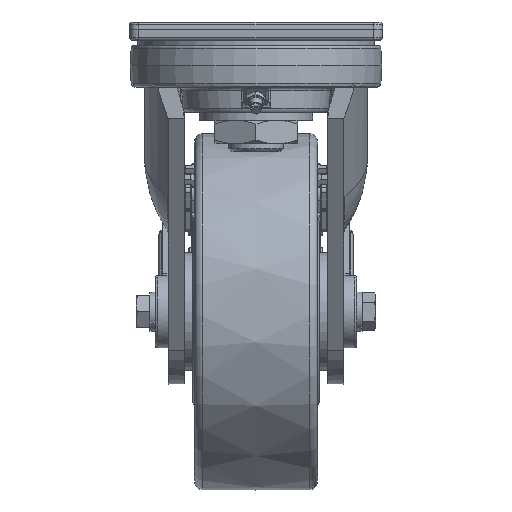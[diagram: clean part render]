
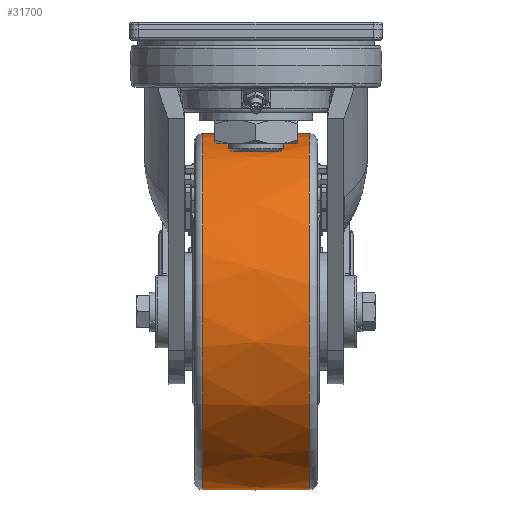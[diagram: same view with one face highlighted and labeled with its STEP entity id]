
A CAD part, left-side view. The second image highlights one B-rep face of the part: STEP entity #31700.
In plain terms, the highlighted free-form (B-spline) face has degree [2, 2] with [3, 9] control points.
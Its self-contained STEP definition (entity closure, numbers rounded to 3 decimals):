
#26=(
BOUNDED_SURFACE()
B_SPLINE_SURFACE(2,2,((#59387,#59388,#59389,#59390,#59391,#59392,#59393,
#59394,#59395),(#59396,#59397,#59398,#59399,#59400,#59401,#59402,#59403,
#59404),(#59405,#59406,#59407,#59408,#59409,#59410,#59411,#59412,#59413)),
 .UNSPECIFIED.,.F.,.T.,.F.)
B_SPLINE_SURFACE_WITH_KNOTS((3,3),(3,2,2,2,3),(-0.098,0.098),
(-3.142,-1.571,0.,1.571,3.142),
 .UNSPECIFIED.)
GEOMETRIC_REPRESENTATION_ITEM()
RATIONAL_B_SPLINE_SURFACE(((1.,0.707,1.,0.707,1.,
0.707,1.,0.707,1.),(0.995,0.704,
0.995,0.704,0.995,0.704,
0.995,0.704,0.995),(1.,0.707,
1.,0.707,1.,0.707,1.,0.707,1.)))
REPRESENTATION_ITEM('')
SURFACE()
);
#4175=FACE_OUTER_BOUND('',#6085,.T.);
#6085=EDGE_LOOP('',(#28425,#28426,#28427,#28428,#28429,#28430));
#12182=CIRCLE('',#34013,98.547);
#12183=CIRCLE('',#34014,98.547);
#12184=CIRCLE('',#34015,300.);
#12185=CIRCLE('',#34016,98.547);
#12186=CIRCLE('',#34017,98.547);
#15118=VERTEX_POINT('',#59382);
#15119=VERTEX_POINT('',#59384);
#15120=VERTEX_POINT('',#59414);
#15121=VERTEX_POINT('',#59416);
#19619=EDGE_CURVE('',#15118,#15119,#12182,.T.);
#19620=EDGE_CURVE('',#15119,#15118,#12183,.T.);
#19621=EDGE_CURVE('',#15118,#15120,#12184,.T.);
#19622=EDGE_CURVE('',#15120,#15121,#12185,.T.);
#19623=EDGE_CURVE('',#15121,#15120,#12186,.T.);
#28425=ORIENTED_EDGE('',*,*,#19620,.F.);
#28426=ORIENTED_EDGE('',*,*,#19619,.F.);
#28427=ORIENTED_EDGE('',*,*,#19621,.T.);
#28428=ORIENTED_EDGE('',*,*,#19622,.T.);
#28429=ORIENTED_EDGE('',*,*,#19623,.T.);
#28430=ORIENTED_EDGE('',*,*,#19621,.F.);
#31700=ADVANCED_FACE('',(#4175),#26,.F.);
#34013=AXIS2_PLACEMENT_3D('',#59385,#40785,#40786);
#34014=AXIS2_PLACEMENT_3D('',#59386,#40787,#40788);
#34015=AXIS2_PLACEMENT_3D('',#59415,#40789,#40790);
#34016=AXIS2_PLACEMENT_3D('',#59417,#40791,#40792);
#34017=AXIS2_PLACEMENT_3D('',#59418,#40793,#40794);
#40785=DIRECTION('center_axis',(0.,1.,0.));
#40786=DIRECTION('ref_axis',(0.854,0.,0.52));
#40787=DIRECTION('center_axis',(0.,1.,0.));
#40788=DIRECTION('ref_axis',(0.854,0.,0.52));
#40789=DIRECTION('center_axis',(0.52,0.,
-0.854));
#40790=DIRECTION('ref_axis',(0.854,0.,0.52));
#40791=DIRECTION('center_axis',(0.,1.,0.));
#40792=DIRECTION('ref_axis',(0.854,0.,0.52));
#40793=DIRECTION('center_axis',(0.,1.,0.));
#40794=DIRECTION('ref_axis',(0.854,0.,0.52));
#59382=CARTESIAN_POINT('',(159.171,29.492,-104.748));
#59384=CARTESIAN_POINT('',(-9.171,29.492,-207.252));
#59385=CARTESIAN_POINT('Origin',(75.,29.492,-156.));
#59386=CARTESIAN_POINT('Origin',(75.,29.492,-156.));
#59387=CARTESIAN_POINT('Ctrl Pts',(159.171,-29.492,-104.748));
#59388=CARTESIAN_POINT('Ctrl Pts',(210.423,-29.492,-188.918));
#59389=CARTESIAN_POINT('Ctrl Pts',(126.252,-29.492,-240.171));
#59390=CARTESIAN_POINT('Ctrl Pts',(42.082,-29.492,-291.423));
#59391=CARTESIAN_POINT('Ctrl Pts',(-9.171,-29.492,
-207.252));
#59392=CARTESIAN_POINT('Ctrl Pts',(-60.423,-29.492,
-123.082));
#59393=CARTESIAN_POINT('Ctrl Pts',(23.748,-29.492,-71.829));
#59394=CARTESIAN_POINT('Ctrl Pts',(107.918,-29.492,-20.577));
#59395=CARTESIAN_POINT('Ctrl Pts',(159.171,-29.492,-104.748));
#59396=CARTESIAN_POINT('Ctrl Pts',(161.659,0.,
-103.233));
#59397=CARTESIAN_POINT('Ctrl Pts',(214.426,0.,
-189.891));
#59398=CARTESIAN_POINT('Ctrl Pts',(127.767,0.,
-242.659));
#59399=CARTESIAN_POINT('Ctrl Pts',(41.108,0.,
-295.426));
#59400=CARTESIAN_POINT('Ctrl Pts',(-11.659,0.,
-208.767));
#59401=CARTESIAN_POINT('Ctrl Pts',(-64.426,0.,
-122.108));
#59402=CARTESIAN_POINT('Ctrl Pts',(22.233,0.,
-69.341));
#59403=CARTESIAN_POINT('Ctrl Pts',(108.892,0.,
-16.574));
#59404=CARTESIAN_POINT('Ctrl Pts',(161.659,0.,
-103.233));
#59405=CARTESIAN_POINT('Ctrl Pts',(159.171,29.492,-104.748));
#59406=CARTESIAN_POINT('Ctrl Pts',(210.423,29.492,-188.918));
#59407=CARTESIAN_POINT('Ctrl Pts',(126.252,29.492,-240.171));
#59408=CARTESIAN_POINT('Ctrl Pts',(42.082,29.492,-291.423));
#59409=CARTESIAN_POINT('Ctrl Pts',(-9.171,29.492,-207.252));
#59410=CARTESIAN_POINT('Ctrl Pts',(-60.423,29.492,-123.082));
#59411=CARTESIAN_POINT('Ctrl Pts',(23.748,29.492,-71.829));
#59412=CARTESIAN_POINT('Ctrl Pts',(107.918,29.492,-20.577));
#59413=CARTESIAN_POINT('Ctrl Pts',(159.171,29.492,-104.748));
#59414=CARTESIAN_POINT('',(159.171,-29.492,-104.748));
#59415=CARTESIAN_POINT('Origin',(-95.824,0.,-260.016));
#59416=CARTESIAN_POINT('',(-9.171,-29.492,-207.252));
#59417=CARTESIAN_POINT('Origin',(75.,-29.492,-156.));
#59418=CARTESIAN_POINT('Origin',(75.,-29.492,-156.));
